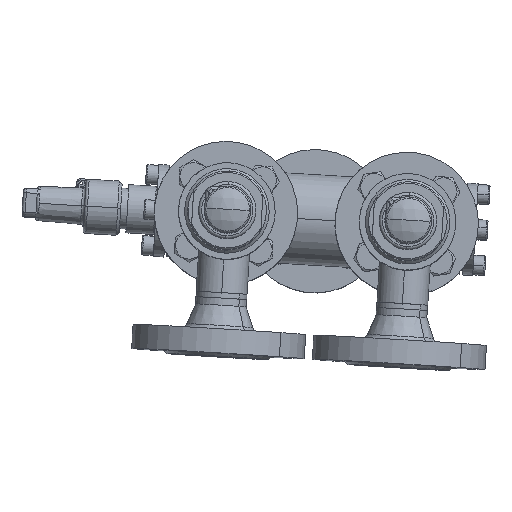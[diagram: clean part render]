
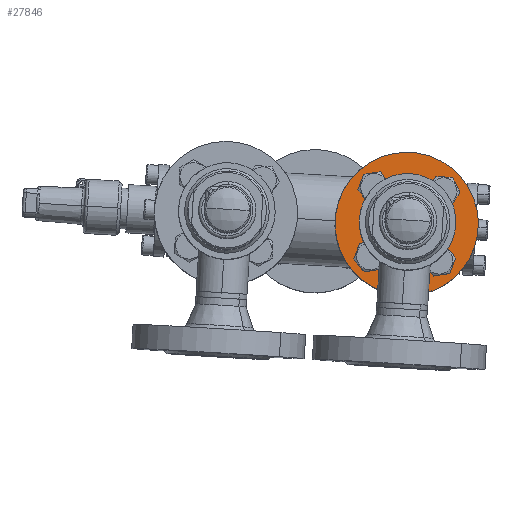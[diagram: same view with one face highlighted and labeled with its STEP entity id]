
A CAD part, left-side view. The second image highlights one B-rep face of the part: STEP entity #27846.
In plain terms, the highlighted planar face has unit normal (-1, -0.004, 0.009) as drawn and (0, 1, 0) by its records, which use the part's own axes.
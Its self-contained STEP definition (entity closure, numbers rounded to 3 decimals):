
#443 = ORIENTED_EDGE ( 'NONE', *, *, #3559, .F. ) ;
#33334 = VERTEX_POINT ( 'NONE', #29024 ) ;
#33820 = EDGE_CURVE ( 'NONE', #16070, #33334, #29415, .T. ) ;
#1975 = EDGE_CURVE ( 'NONE', #3004, #25120, #4529, .T. ) ;
#18732 = CARTESIAN_POINT ( 'NONE',  ( 18.88, 16., 0. ) ) ;
#18974 = FACE_BOUND ( 'NONE', #27336, .T. ) ;
#18975 = FACE_BOUND ( 'NONE', #4204, .T. ) ;
#18976 = FACE_BOUND ( 'NONE', #42817, .T. ) ;
#35348 = EDGE_CURVE ( 'NONE', #20940, #23261, #30975, .T. ) ;
#18977 = FACE_BOUND ( 'NONE', #37966, .T. ) ;
#18978 = FACE_BOUND ( 'NONE', #13618, .T. ) ;
#18979 = FACE_OUTER_BOUND ( 'NONE', #10616, .T. ) ;
#18980 = PLANE ( 'NONE',  #18981 ) ;
#18981 = AXIS2_PLACEMENT_3D ( 'NONE', #18982, #18983, #18984 ) ;
#18982 = CARTESIAN_POINT ( 'NONE',  ( 47.5, 16., 0. ) ) ;
#18983 = DIRECTION ( 'NONE',  ( 0., -1., 0. ) ) ;
#18984 = DIRECTION ( 'NONE',  ( 1., 0., 0. ) ) ;
#3004 = VERTEX_POINT ( 'NONE', #6063 ) ;
#3059 = ORIENTED_EDGE ( 'NONE', *, *, #1975, .F. ) ;
#3559 = EDGE_CURVE ( 'NONE', #25120, #3004, #6460, .T. ) ;
#19939 = CIRCLE ( 'NONE', #19940, 18.88 ) ;
#19940 = AXIS2_PLACEMENT_3D ( 'NONE', #19967, #19968, #19969 ) ;
#19967 = CARTESIAN_POINT ( 'NONE',  ( 0., 16., 0. ) ) ;
#19968 = DIRECTION ( 'NONE',  ( 0., 1., 0. ) ) ;
#19969 = DIRECTION ( 'NONE',  ( -1., 0., 0. ) ) ;
#36441 = ORIENTED_EDGE ( 'NONE', *, *, #35348, .F. ) ;
#3829 = VERTEX_POINT ( 'NONE', #7154 ) ;
#4204 = EDGE_LOOP ( 'NONE', ( #3059, #443 ) ) ;
#4283 = EDGE_CURVE ( 'NONE', #27646, #3829, #7628, .T. ) ;
#4529 = CIRCLE ( 'NONE', #4530, 7. ) ;
#4530 = AXIS2_PLACEMENT_3D ( 'NONE', #4531, #4532, #4533 ) ;
#4531 = CARTESIAN_POINT ( 'NONE',  ( -32.5, 16., 0. ) ) ;
#4532 = DIRECTION ( 'NONE',  ( 0., 1., 0. ) ) ;
#4533 = DIRECTION ( 'NONE',  ( 1., 0., 0. ) ) ;
#20940 = VERTEX_POINT ( 'NONE', #5620 ) ;
#4717 = ORIENTED_EDGE ( 'NONE', *, *, #33820, .F. ) ;
#21277 = CARTESIAN_POINT ( 'NONE',  ( -47.5, 16., 0. ) ) ;
#21344 = CARTESIAN_POINT ( 'NONE',  ( -7., 16., 32.5 ) ) ;
#21403 = EDGE_CURVE ( 'NONE', #23261, #20940, #6283, .T. ) ;
#37966 = EDGE_LOOP ( 'NONE', ( #36441, #14115 ) ) ;
#21621 = CIRCLE ( 'NONE', #21622, 47.5 ) ;
#21622 = AXIS2_PLACEMENT_3D ( 'NONE', #21623, #21624, #21625 ) ;
#21623 = CARTESIAN_POINT ( 'NONE',  ( 0., 16., 0. ) ) ;
#21624 = DIRECTION ( 'NONE',  ( 0., 1., 0. ) ) ;
#21625 = DIRECTION ( 'NONE',  ( -1., 0., 0. ) ) ;
#21849 = CIRCLE ( 'NONE', #21850, 7. ) ;
#21850 = AXIS2_PLACEMENT_3D ( 'NONE', #21851, #21872, #21873 ) ;
#21851 = CARTESIAN_POINT ( 'NONE',  ( 0., 16., 32.5 ) ) ;
#21872 = DIRECTION ( 'NONE',  ( 0., 1., 0. ) ) ;
#21873 = DIRECTION ( 'NONE',  ( 0., 0., -1. ) ) ;
#5620 = CARTESIAN_POINT ( 'NONE',  ( 25.5, 16., 0. ) ) ;
#38427 = CARTESIAN_POINT ( 'NONE',  ( 7., 16., -32.5 ) ) ;
#38666 = ORIENTED_EDGE ( 'NONE', *, *, #12347, .F. ) ;
#6063 = CARTESIAN_POINT ( 'NONE',  ( -39.5, 16., 0. ) ) ;
#6283 = CIRCLE ( 'NONE', #6284, 7. ) ;
#6284 = AXIS2_PLACEMENT_3D ( 'NONE', #6285, #6310, #6311 ) ;
#6285 = CARTESIAN_POINT ( 'NONE',  ( 32.5, 16., 0. ) ) ;
#6310 = DIRECTION ( 'NONE',  ( 0., 1., 0. ) ) ;
#6311 = DIRECTION ( 'NONE',  ( -1., 0., 0. ) ) ;
#6460 = CIRCLE ( 'NONE', #6461, 7. ) ;
#6461 = AXIS2_PLACEMENT_3D ( 'NONE', #6462, #6463, #6464 ) ;
#6462 = CARTESIAN_POINT ( 'NONE',  ( -32.5, 16., 0. ) ) ;
#6463 = DIRECTION ( 'NONE',  ( 0., 1., 0. ) ) ;
#6464 = DIRECTION ( 'NONE',  ( 1., 0., 0. ) ) ;
#39571 = CIRCLE ( 'NONE', #39572, 7. ) ;
#39572 = AXIS2_PLACEMENT_3D ( 'NONE', #39573, #39574, #39575 ) ;
#39573 = CARTESIAN_POINT ( 'NONE',  ( 0., 16., 32.5 ) ) ;
#39574 = DIRECTION ( 'NONE',  ( 0., 1., 0. ) ) ;
#39575 = DIRECTION ( 'NONE',  ( 0., 0., -1. ) ) ;
#23261 = VERTEX_POINT ( 'NONE', #9524 ) ;
#7154 = CARTESIAN_POINT ( 'NONE',  ( -18.88, 16., 0. ) ) ;
#40197 = EDGE_CURVE ( 'NONE', #11886, #14192, #39571, .T. ) ;
#7628 = CIRCLE ( 'NONE', #7647, 18.88 ) ;
#7647 = AXIS2_PLACEMENT_3D ( 'NONE', #7648, #7649, #7650 ) ;
#7648 = CARTESIAN_POINT ( 'NONE',  ( 0., 16., 0. ) ) ;
#7649 = DIRECTION ( 'NONE',  ( 0., 1., 0. ) ) ;
#7650 = DIRECTION ( 'NONE',  ( -1., 0., 0. ) ) ;
#7685 = EDGE_CURVE ( 'NONE', #32343, #29687, #12007, .T. ) ;
#24517 = CARTESIAN_POINT ( 'NONE',  ( 7., 16., 32.5 ) ) ;
#8458 = ORIENTED_EDGE ( 'NONE', *, *, #7685, .T. ) ;
#41280 = ORIENTED_EDGE ( 'NONE', *, *, #40197, .F. ) ;
#25120 = VERTEX_POINT ( 'NONE', #12402 ) ;
#25504 = EDGE_CURVE ( 'NONE', #33334, #16070, #12628, .T. ) ;
#9524 = CARTESIAN_POINT ( 'NONE',  ( 39.5, 16., 0. ) ) ;
#9535 = ORIENTED_EDGE ( 'NONE', *, *, #30149, .T. ) ;
#26261 = ORIENTED_EDGE ( 'NONE', *, *, #25504, .F. ) ;
#42817 = EDGE_LOOP ( 'NONE', ( #41280, #38666 ) ) ;
#10616 = EDGE_LOOP ( 'NONE', ( #9535, #8458 ) ) ;
#27283 = CARTESIAN_POINT ( 'NONE',  ( 47.5, 16., 0. ) ) ;
#27336 = EDGE_LOOP ( 'NONE', ( #26261, #4717 ) ) ;
#11114 = ORIENTED_EDGE ( 'NONE', *, *, #4283, .F. ) ;
#27646 = VERTEX_POINT ( 'NONE', #18732 ) ;
#27846 = ADVANCED_FACE ( 'NONE', ( #18974, #18975, #18976, #18977, #18978, #18979 ), #18980, .F. ) ;
#11886 = VERTEX_POINT ( 'NONE', #21344 ) ;
#12007 = CIRCLE ( 'NONE', #12008, 47.5 ) ;
#12008 = AXIS2_PLACEMENT_3D ( 'NONE', #12009, #12010, #12011 ) ;
#12009 = CARTESIAN_POINT ( 'NONE',  ( 0., 16., 0. ) ) ;
#12010 = DIRECTION ( 'NONE',  ( 0., 1., 0. ) ) ;
#12011 = DIRECTION ( 'NONE',  ( -1., 0., 0. ) ) ;
#12195 = ORIENTED_EDGE ( 'NONE', *, *, #28645, .F. ) ;
#28645 = EDGE_CURVE ( 'NONE', #3829, #27646, #19939, .T. ) ;
#12347 = EDGE_CURVE ( 'NONE', #14192, #11886, #21849, .T. ) ;
#12402 = CARTESIAN_POINT ( 'NONE',  ( -25.5, 16., 0. ) ) ;
#12628 = CIRCLE ( 'NONE', #12629, 7. ) ;
#12629 = AXIS2_PLACEMENT_3D ( 'NONE', #12630, #12631, #12632 ) ;
#12630 = CARTESIAN_POINT ( 'NONE',  ( 0., 16., -32.5 ) ) ;
#12631 = DIRECTION ( 'NONE',  ( 0., 1., 0. ) ) ;
#12632 = DIRECTION ( 'NONE',  ( 0., 0., 1. ) ) ;
#29024 = CARTESIAN_POINT ( 'NONE',  ( -7., 16., -32.5 ) ) ;
#29415 = CIRCLE ( 'NONE', #29416, 7. ) ;
#29416 = AXIS2_PLACEMENT_3D ( 'NONE', #29417, #29418, #29440 ) ;
#29417 = CARTESIAN_POINT ( 'NONE',  ( 0., 16., -32.5 ) ) ;
#29418 = DIRECTION ( 'NONE',  ( 0., 1., 0. ) ) ;
#29440 = DIRECTION ( 'NONE',  ( 0., 0., 1. ) ) ;
#29687 = VERTEX_POINT ( 'NONE', #21277 ) ;
#13618 = EDGE_LOOP ( 'NONE', ( #12195, #11114 ) ) ;
#30149 = EDGE_CURVE ( 'NONE', #29687, #32343, #21621, .T. ) ;
#14115 = ORIENTED_EDGE ( 'NONE', *, *, #21403, .F. ) ;
#14192 = VERTEX_POINT ( 'NONE', #24517 ) ;
#30975 = CIRCLE ( 'NONE', #30976, 7. ) ;
#30976 = AXIS2_PLACEMENT_3D ( 'NONE', #30977, #30978, #30979 ) ;
#30977 = CARTESIAN_POINT ( 'NONE',  ( 32.5, 16., 0. ) ) ;
#30978 = DIRECTION ( 'NONE',  ( 0., 1., 0. ) ) ;
#30979 = DIRECTION ( 'NONE',  ( -1., 0., 0. ) ) ;
#32343 = VERTEX_POINT ( 'NONE', #27283 ) ;
#16070 = VERTEX_POINT ( 'NONE', #38427 ) ;
